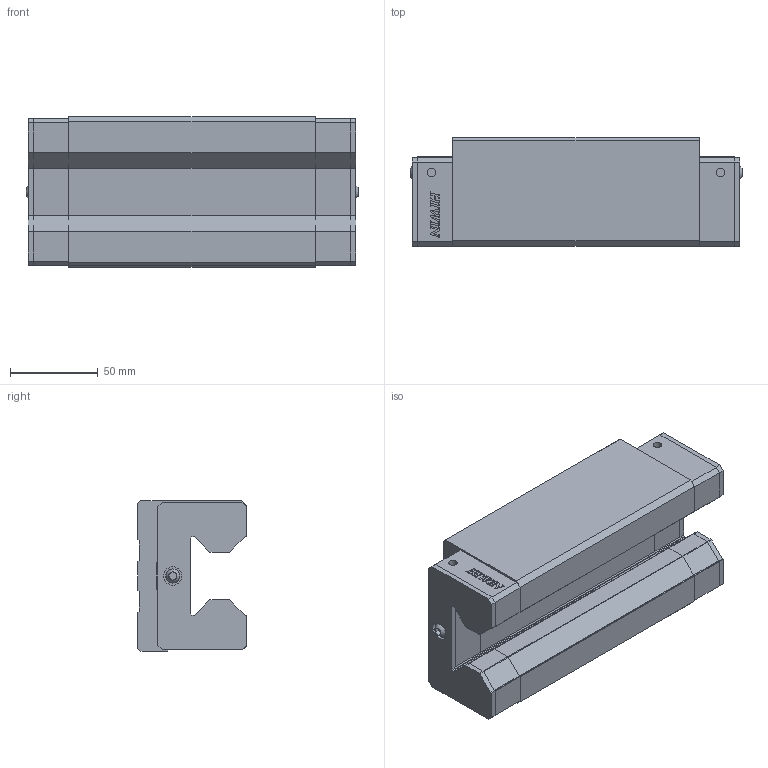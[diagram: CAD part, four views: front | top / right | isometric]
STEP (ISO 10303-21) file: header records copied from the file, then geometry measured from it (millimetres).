
FILE_DESCRIPTION(/* description */ (''),/* implementation_level */ '2;1');
FILE_NAME(/* name */ 'URH45HAZAH_GW202603049631.stp',/* time_stamp */ '2026-03-30T22:56:52+08:00',/* author */ ('User'),/* organization */ (''),/* preprocessor_version */ 'ST-DEVELOPER v20.1',/* originating_system */ 'Autodesk Inventor 2026',/* authorisation */ '');
FILE_SCHEMA (('AUTOMOTIVE_DESIGN { 1 0 10303 214 3 1 1 }'));
Products named in the file (3): URH45HAZAH_GW202603049631; URH45H_左封; 31010069
Assembly tree (3 placements, depth 2):
  URH45HAZAH_GW202603049631
    URH45H_左封
    31010069  x2
Bounding box: 189.4 x 62 x 86 mm (x, y, z)
Volume: 728413.8 mm3; surface area: 105543.7 mm2
Topology: 7 solids, 7 shells, 514 faces, 1420 edges, 944 vertices
Faces by surface type: plane 372, cylinder 134, cone 6, bspline 2
Full cylindrical faces by diameter (mm): 1.5 x2, 4.917 x4, 6 x2, 6.4 x2, 8 x2, 8.376 x6, 10.3 x2, 10.5 x2
Entity records: 16096 total; most frequent: CARTESIAN_POINT 2848, ORIENTED_EDGE 2776, DIRECTION 2666, EDGE_CURVE 1388, LINE 1122, VECTOR 1122, VERTEX_POINT 927, AXIS2_PLACEMENT_3D 772
